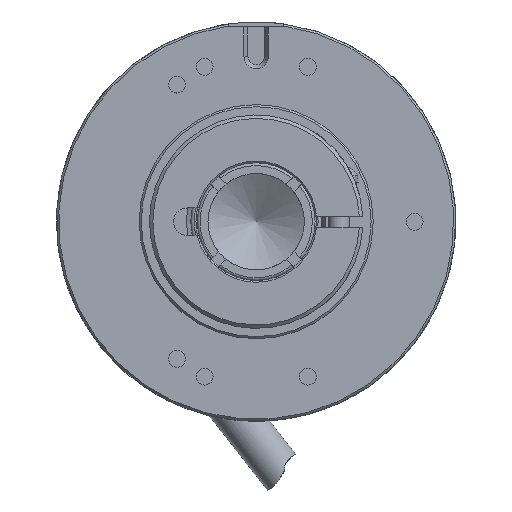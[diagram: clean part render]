
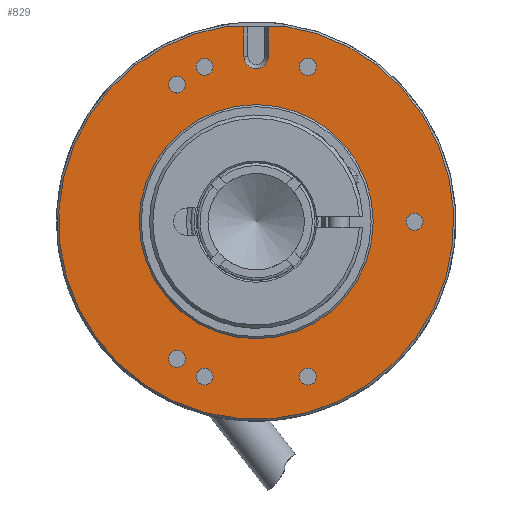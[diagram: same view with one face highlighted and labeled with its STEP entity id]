
A CAD part, left-side view. The second image highlights one B-rep face of the part: STEP entity #829.
In plain terms, the highlighted planar face has unit normal (-1, 0, 0).
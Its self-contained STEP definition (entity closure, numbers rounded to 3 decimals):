
#829 = ADVANCED_FACE( '', ( #2106, #2107, #2108, #2109, #2110, #2111, #2112, #2113, #2114 ), #2115, .T. );
#2106 = FACE_OUTER_BOUND( '', #9747, .T. );
#2107 = FACE_BOUND( '', #9748, .T. );
#2108 = FACE_BOUND( '', #9749, .T. );
#2109 = FACE_BOUND( '', #9750, .T. );
#2110 = FACE_BOUND( '', #9751, .T. );
#2111 = FACE_BOUND( '', #9752, .T. );
#2112 = FACE_BOUND( '', #9753, .T. );
#2113 = FACE_BOUND( '', #9754, .T. );
#2114 = FACE_BOUND( '', #9755, .T. );
#2115 = PLANE( '', #9756 );
#9747 = EDGE_LOOP( '', ( #37482, #37483, #37484, #37485, #37486, #37487, #37488, #37489 ) );
#9748 = EDGE_LOOP( '', ( #37490 ) );
#9749 = EDGE_LOOP( '', ( #37491 ) );
#9750 = EDGE_LOOP( '', ( #37492 ) );
#9751 = EDGE_LOOP( '', ( #37493 ) );
#9752 = EDGE_LOOP( '', ( #37494 ) );
#9753 = EDGE_LOOP( '', ( #37495 ) );
#9754 = EDGE_LOOP( '', ( #37496 ) );
#9755 = EDGE_LOOP( '', ( #37497 ) );
#9756 = AXIS2_PLACEMENT_3D( '', #37498, #37499, #37500 );
#37482 = ORIENTED_EDGE( '', *, *, #41408, .T. );
#37483 = ORIENTED_EDGE( '', *, *, #41409, .T. );
#37484 = ORIENTED_EDGE( '', *, *, #41410, .T. );
#37485 = ORIENTED_EDGE( '', *, *, #41411, .T. );
#37486 = ORIENTED_EDGE( '', *, *, #41412, .T. );
#37487 = ORIENTED_EDGE( '', *, *, #41413, .F. );
#37488 = ORIENTED_EDGE( '', *, *, #41414, .F. );
#37489 = ORIENTED_EDGE( '', *, *, #41324, .F. );
#37490 = ORIENTED_EDGE( '', *, *, #40882, .T. );
#37491 = ORIENTED_EDGE( '', *, *, #41415, .T. );
#37492 = ORIENTED_EDGE( '', *, *, #41346, .T. );
#37493 = ORIENTED_EDGE( '', *, *, #41416, .T. );
#37494 = ORIENTED_EDGE( '', *, *, #41417, .T. );
#37495 = ORIENTED_EDGE( '', *, *, #41353, .T. );
#37496 = ORIENTED_EDGE( '', *, *, #41418, .T. );
#37497 = ORIENTED_EDGE( '', *, *, #41166, .F. );
#37498 = CARTESIAN_POINT( '', ( 15., -19.789, 11.425 ) );
#37499 = DIRECTION( '', ( -1., 0., 0. ) );
#37500 = DIRECTION( '', ( 0., 0., 1. ) );
#40882 = EDGE_CURVE( '', #42696, #42696, #42697, .T. );
#41166 = EDGE_CURVE( '', #43200, #43200, #43201, .T. );
#41324 = EDGE_CURVE( '', #43455, #43451, #43457, .T. );
#41346 = EDGE_CURVE( '', #43490, #43490, #43491, .T. );
#41353 = EDGE_CURVE( '', #43500, #43500, #43501, .T. );
#41408 = EDGE_CURVE( '', #43455, #43585, #43586, .T. );
#41409 = EDGE_CURVE( '', #43585, #43587, #43588, .T. );
#41410 = EDGE_CURVE( '', #43587, #43589, #43590, .T. );
#41411 = EDGE_CURVE( '', #43589, #43591, #43592, .T. );
#41412 = EDGE_CURVE( '', #43591, #43593, #43594, .T. );
#41413 = EDGE_CURVE( '', #43595, #43593, #43596, .T. );
#41414 = EDGE_CURVE( '', #43451, #43595, #43597, .T. );
#41415 = EDGE_CURVE( '', #43598, #43598, #43599, .T. );
#41416 = EDGE_CURVE( '', #43600, #43600, #43601, .T. );
#41417 = EDGE_CURVE( '', #43602, #43602, #43603, .T. );
#41418 = EDGE_CURVE( '', #43604, #43604, #43605, .T. );
#42696 = VERTEX_POINT( '', #45401 );
#42697 = CIRCLE( '', #45402, 1.23 );
#43200 = VERTEX_POINT( '', #47776 );
#43201 = CIRCLE( '', #47777, 17. );
#43451 = VERTEX_POINT( '', #48417 );
#43455 = VERTEX_POINT( '', #48423 );
#43457 = LINE( '', #48426, #48427 );
#43490 = VERTEX_POINT( '', #48485 );
#43491 = CIRCLE( '', #48486, 1.23 );
#43500 = VERTEX_POINT( '', #48521 );
#43501 = CIRCLE( '', #48522, 1.23 );
#43585 = VERTEX_POINT( '', #48885 );
#43586 = LINE( '', #48886, #48887 );
#43587 = VERTEX_POINT( '', #48888 );
#43588 = LINE( '', #48889, #48890 );
#43589 = VERTEX_POINT( '', #48891 );
#43590 = CIRCLE( '', #48892, 28.7 );
#43591 = VERTEX_POINT( '', #48893 );
#43592 = LINE( '', #48894, #48895 );
#43593 = VERTEX_POINT( '', #48896 );
#43594 = LINE( '', #48897, #48898 );
#43595 = VERTEX_POINT( '', #48899 );
#43596 = LINE( '', #48900, #48901 );
#43597 = CIRCLE( '', #48902, 1.78 );
#43598 = VERTEX_POINT( '', #48903 );
#43599 = CIRCLE( '', #48904, 1.23 );
#43600 = VERTEX_POINT( '', #48905 );
#43601 = CIRCLE( '', #48906, 1.23 );
#43602 = VERTEX_POINT( '', #48907 );
#43603 = CIRCLE( '', #48908, 1.23 );
#43604 = VERTEX_POINT( '', #48909 );
#43605 = CIRCLE( '', #48910, 1.23 );
#45401 = CARTESIAN_POINT( '', ( 15., 10.435, -19.304 ) );
#45402 = AXIS2_PLACEMENT_3D( '', #55211, #55212, #55213 );
#47776 = CARTESIAN_POINT( '', ( 15., -14.722, 8.5 ) );
#47777 = AXIS2_PLACEMENT_3D( '', #55448, #55449, #55450 );
#48417 = CARTESIAN_POINT( '', ( 15., 1.778, 23.997 ) );
#48423 = CARTESIAN_POINT( '', ( 15., 1.778, 28.297 ) );
#48426 = CARTESIAN_POINT( '', ( 15., 1.778, 25.897 ) );
#48427 = VECTOR( '', #55648, 1000. );
#48485 = CARTESIAN_POINT( '', ( 15., -8.565, -21.885 ) );
#48486 = AXIS2_PLACEMENT_3D( '', #55672, #55673, #55674 );
#48521 = CARTESIAN_POINT( '', ( 15., 6.435, 23.115 ) );
#48522 = AXIS2_PLACEMENT_3D( '', #55679, #55680, #55681 );
#48885 = CARTESIAN_POINT( '', ( 15., 4., 28.297 ) );
#48886 = CARTESIAN_POINT( '', ( 15., -4.102, 28.297 ) );
#48887 = VECTOR( '', #55727, 1000. );
#48888 = CARTESIAN_POINT( '', ( 15., 4., 28.42 ) );
#48889 = CARTESIAN_POINT( '', ( 15., 4., 20.25 ) );
#48890 = VECTOR( '', #55728, 1000. );
#48891 = CARTESIAN_POINT( '', ( 15., -4., 28.42 ) );
#48892 = AXIS2_PLACEMENT_3D( '', #55729, #55730, #55731 );
#48893 = CARTESIAN_POINT( '', ( 15., -4., 28.297 ) );
#48894 = CARTESIAN_POINT( '', ( 15., -4., 20.25 ) );
#48895 = VECTOR( '', #55732, 1000. );
#48896 = CARTESIAN_POINT( '', ( 15., -1.782, 28.297 ) );
#48897 = CARTESIAN_POINT( '', ( 15., -4.102, 28.297 ) );
#48898 = VECTOR( '', #55733, 1000. );
#48899 = CARTESIAN_POINT( '', ( 15., -1.782, 23.997 ) );
#48900 = CARTESIAN_POINT( '', ( 15., -1.782, 25.897 ) );
#48901 = VECTOR( '', #55734, 1000. );
#48902 = AXIS2_PLACEMENT_3D( '', #55735, #55736, #55737 );
#48903 = CARTESIAN_POINT( '', ( 15., 6.435, -21.885 ) );
#48904 = AXIS2_PLACEMENT_3D( '', #55738, #55739, #55740 );
#48905 = CARTESIAN_POINT( '', ( 15., -24.065, 0.615 ) );
#48906 = AXIS2_PLACEMENT_3D( '', #55741, #55742, #55743 );
#48907 = CARTESIAN_POINT( '', ( 15., 10.435, 20.534 ) );
#48908 = AXIS2_PLACEMENT_3D( '', #55744, #55745, #55746 );
#48909 = CARTESIAN_POINT( '', ( 15., -8.565, 23.115 ) );
#48910 = AXIS2_PLACEMENT_3D( '', #55747, #55748, #55749 );
#55211 = CARTESIAN_POINT( '', ( 15., 11.5, -19.919 ) );
#55212 = DIRECTION( '', ( 1., 0., 0. ) );
#55213 = DIRECTION( '', ( 0., -0.866, 0.5 ) );
#55448 = CARTESIAN_POINT( '', ( 15., 0., 0. ) );
#55449 = DIRECTION( '', ( -1., 0., 0. ) );
#55450 = DIRECTION( '', ( 0., -0.866, 0.5 ) );
#55648 = DIRECTION( '', ( 0., 0., -1. ) );
#55672 = CARTESIAN_POINT( '', ( 15., -7.5, -22.5 ) );
#55673 = DIRECTION( '', ( 1., 0., 0. ) );
#55674 = DIRECTION( '', ( 0., -0.866, 0.5 ) );
#55679 = CARTESIAN_POINT( '', ( 15., 7.5, 22.5 ) );
#55680 = DIRECTION( '', ( 1., 0., 0. ) );
#55681 = DIRECTION( '', ( 0., -0.866, 0.5 ) );
#55727 = DIRECTION( '', ( 0., 1., 0. ) );
#55728 = DIRECTION( '', ( 0., 0., 1. ) );
#55729 = CARTESIAN_POINT( '', ( 15., 0., 0. ) );
#55730 = DIRECTION( '', ( -1., 0., 0. ) );
#55731 = DIRECTION( '', ( 0., -0.866, 0.5 ) );
#55732 = DIRECTION( '', ( 0., 0., -1. ) );
#55733 = DIRECTION( '', ( 0., 1., 0. ) );
#55734 = DIRECTION( '', ( 0., 0., 1. ) );
#55735 = CARTESIAN_POINT( '', ( 15., -0.002, 23.997 ) );
#55736 = DIRECTION( '', ( -1., 0., 0. ) );
#55737 = DIRECTION( '', ( 0., 1., 0. ) );
#55738 = CARTESIAN_POINT( '', ( 15., 7.5, -22.5 ) );
#55739 = DIRECTION( '', ( 1., 0., 0. ) );
#55740 = DIRECTION( '', ( 0., -0.866, 0.5 ) );
#55741 = CARTESIAN_POINT( '', ( 15., -23., 0. ) );
#55742 = DIRECTION( '', ( 1., 0., 0. ) );
#55743 = DIRECTION( '', ( 0., -0.866, 0.5 ) );
#55744 = CARTESIAN_POINT( '', ( 15., 11.5, 19.919 ) );
#55745 = DIRECTION( '', ( 1., 0., 0. ) );
#55746 = DIRECTION( '', ( 0., -0.866, 0.5 ) );
#55747 = CARTESIAN_POINT( '', ( 15., -7.5, 22.5 ) );
#55748 = DIRECTION( '', ( 1., 0., 0. ) );
#55749 = DIRECTION( '', ( 0., -0.866, 0.5 ) );
